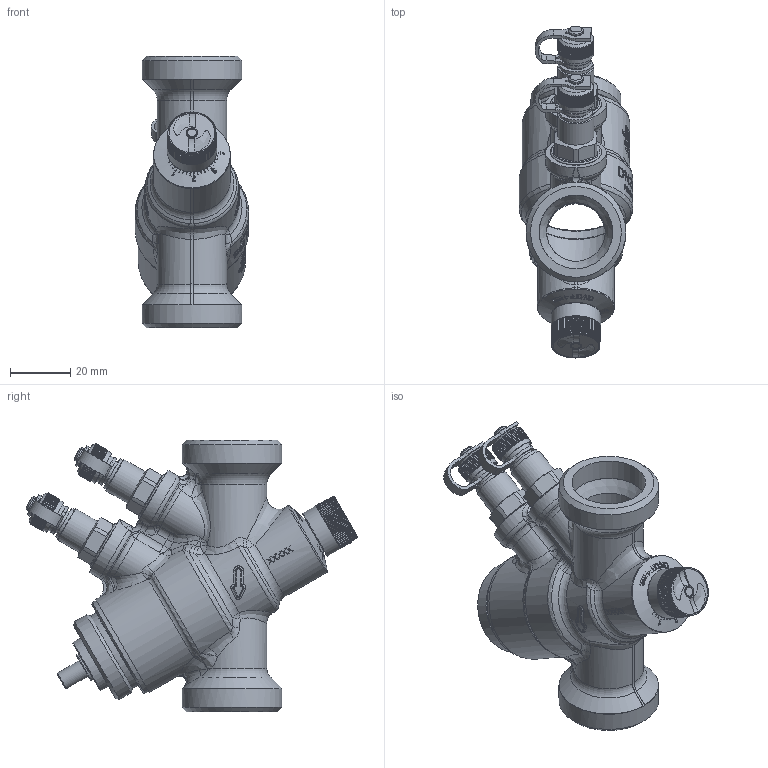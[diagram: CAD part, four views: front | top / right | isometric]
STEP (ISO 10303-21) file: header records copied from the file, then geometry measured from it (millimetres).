
FILE_DESCRIPTION(/* description */ ('Ventil on/off DN20 N/N P/T High'),/* implementation_level */ '2;1');
FILE_NAME(/* name */ 'C:\Users\cbr\Desktop\01-0246.stp',/* time_stamp */ '2019-10-23T10:05:56+02:00',/* author */ ('cbr'),/* organization */ (''),/* preprocessor_version */ 'ST-DEVELOPER v17.2',/* originating_system */ 'Autodesk Inventor 2019',/* authorisation */ '');
FILE_SCHEMA (('AUTOMOTIVE_DESIGN { 1 0 10303 214 3 1 1 }'));
Length unit declared in the file: millimetre
Products named in the file (33): 01-0246; 59772; 901310; 69706; 75609; 68936; 73039-90778; 66591; 66083; 80502; 79168-901310; 73160-901310; 73047; 66592; 80503; 73039-01-02XX; 75315; 67467; 79169; 75612; 90338; 73040 for 90329; 75344_monteret; 73075 for 92005; 90339; 67460; 66588; 67055; 73040 for 67055; 75145; 75345_monteret; 73075 for 90308; 91707_01-0246
Assembly tree (40 placements, depth 3):
  01-0246
    59772
    901310
      69706
      75609
      68936
      73039-90778  x2
      66591
      66083
      80502
      79168-901310
      73160-901310
      73047
      66592
      79169
    80503
    73039-01-02XX
    75315
    67467
    79169
    75612
    90338
      67460
      66588
      67055
      73040 for 90329
      75145  x2
      75344_monteret
      73075 for 92005
    90339
      67460
      66588
      67055
      73040 for 67055
      75145  x2
      75345_monteret
      73075 for 90308
    91707_01-0246
Bounding box: 37.78 x 110.44 x 90.4 mm (x, y, z)
Volume: 57927.7 mm3; surface area: 55289.9 mm2
Topology: 131 solids, 131 shells, 3498 faces, 9430 edges, 6234 vertices
Faces by surface type: plane 1609, bspline 837, cylinder 751, cone 186, torus 94, sphere 21
Full cylindrical faces by diameter (mm): 2 x1, 2.9 x2, 3 x7, 3.1 x2, 3.2 x2, 3.3 x1, 4 x2, 4.3 x2, 5 x6, 6 x3, 6.1 x2, 6.2 x5, 6.3 x1, 7 x3, 7.4 x1, 7.5 x2, 8 x1, 8.3 x2, 8.566 x2, 9 x2, 9.15 x2, 9.2 x2, 9.3 x1, 9.5 x1, 9.6 x2, 9.728 x2, 10 x3, 11 x4, 11.5 x3, 11.7 x4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
Entity records: 131670 total; most frequent: CARTESIAN_POINT 57719, ORIENTED_EDGE 16576, DIRECTION 12768, EDGE_CURVE 8288, VERTEX_POINT 5485, AXIS2_PLACEMENT_3D 4484, LINE 3800, VECTOR 3800
